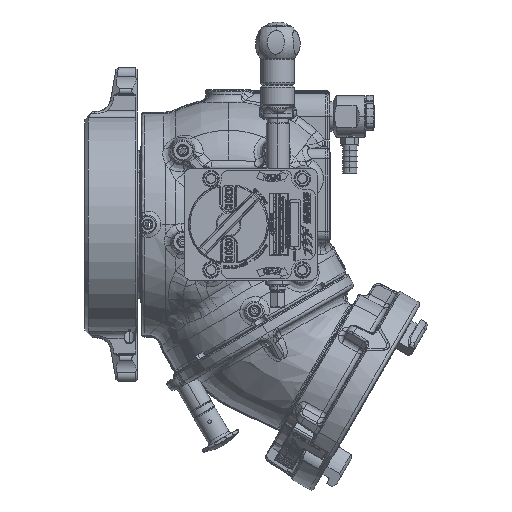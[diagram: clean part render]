
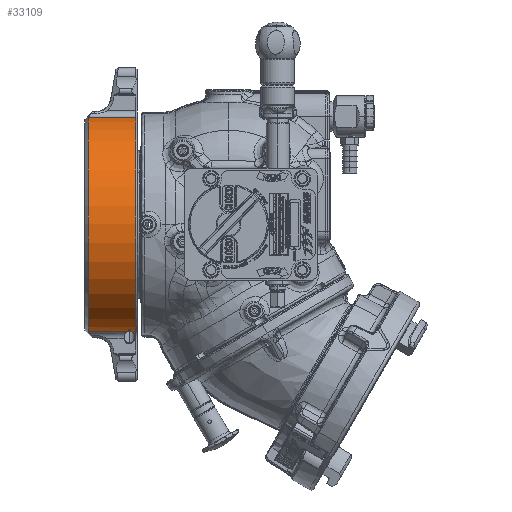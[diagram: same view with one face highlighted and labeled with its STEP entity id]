
A CAD part, top view. The second image highlights one B-rep face of the part: STEP entity #33109.
In plain terms, the highlighted cylindrical face has radius 98.425 mm (diameter 196.85 mm), a partial arc.
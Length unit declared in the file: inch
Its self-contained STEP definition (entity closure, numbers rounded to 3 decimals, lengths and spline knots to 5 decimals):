
#264 = CARTESIAN_POINT ( 'NONE',  ( -3.51968, -3.75915, 0.94042 ) ) ;
#1982 = VERTEX_POINT ( 'NONE', #151601 ) ;
#2989 = CARTESIAN_POINT ( 'NONE',  ( -3.46826, -3.80737, 0.72106 ) ) ;
#7655 = EDGE_CURVE ( 'NONE', #209886, #174272, #71260, .T. ) ;
#7813 = EDGE_CURVE ( 'NONE', #211570, #70257, #176320, .T. ) ;
#16748 = CARTESIAN_POINT ( 'NONE',  ( -5.158, -3.81468, 0.68106 ) ) ;
#18920 = CARTESIAN_POINT ( 'NONE',  ( -3.52753, -3.75938, 0.93953 ) ) ;
#20945 = CARTESIAN_POINT ( 'NONE',  ( -3.48483, -3.80184, 0.74951 ) ) ;
#24626 = ORIENTED_EDGE ( 'NONE', *, *, #67669, .T. ) ;
#24766 = VERTEX_POINT ( 'NONE', #178304 ) ;
#26844 = DIRECTION ( 'NONE',  ( 1., 0., 0. ) ) ;
#28672 = DIRECTION ( 'NONE',  ( 1., 0., 0. ) ) ;
#30025 = VECTOR ( 'NONE', #195940, 39.37008 ) ;
#32451 = B_SPLINE_CURVE_WITH_KNOTS ( 'NONE', 3,
 ( #167777, #200117, #134706, #34920, #67985, #84504, #117507, #68713, #18920, #68507, #264, #118029, #166146, #116585, #99332, #34714, #49120, #166873 ),
 .UNSPECIFIED., .F., .F.,
 ( 4, 2, 2, 2, 2, 2, 2, 2, 4 ),
 ( 0., 0.00079, 0.00119, 0.00139, 0.00159, 0.00179, 0.00198, 0.00238, 0.00318 ),
 .UNSPECIFIED. ) ;
#32482 = VECTOR ( 'NONE', #26844, 39.37008 ) ;
#32859 = LINE ( 'NONE', #16748, #210112 ) ;
#33109 = ADVANCED_FACE ( 'NONE', ( #161799, #159189 ), #125792, .T. ) ;
#34573 = CARTESIAN_POINT ( 'NONE',  ( -3.45867, -3.81108, 0.70125 ) ) ;
#34714 = CARTESIAN_POINT ( 'NONE',  ( -3.49678, -3.75234, 0.96729 ) ) ;
#34920 = CARTESIAN_POINT ( 'NONE',  ( -3.54516, -3.75571, 0.9541 ) ) ;
#35071 = CARTESIAN_POINT ( 'NONE',  ( -3.3075, 3.81468, 0.68106 ) ) ;
#35230 = LINE ( 'NONE', #38555, #63494 ) ;
#35647 = CARTESIAN_POINT ( 'NONE',  ( -4.983, 0., 0. ) ) ;
#37119 = DIRECTION ( 'NONE',  ( 1., 0., 0. ) ) ;
#37402 = CARTESIAN_POINT ( 'NONE',  ( -3.44967, -3.81468, 0.68106 ) ) ;
#38555 = CARTESIAN_POINT ( 'NONE',  ( -5.158, -3.81468, 0.68106 ) ) ;
#39236 = AXIS2_PLACEMENT_3D ( 'NONE', #35647, #150527, #167077 ) ;
#39956 = EDGE_CURVE ( 'NONE', #1982, #211570, #74061, .T. ) ;
#46193 = ORIENTED_EDGE ( 'NONE', *, *, #170651, .F. ) ;
#48098 = CARTESIAN_POINT ( 'NONE',  ( -3.525, -3.79443, 0.78607 ) ) ;
#49120 = CARTESIAN_POINT ( 'NONE',  ( -3.49274, -3.74995, 0.97653 ) ) ;
#52691 = CARTESIAN_POINT ( 'NONE',  ( -3.56498, -3.80178, 0.74981 ) ) ;
#53419 = CARTESIAN_POINT ( 'NONE',  ( -3.54482, -3.79644, 0.77631 ) ) ;
#53972 = CARTESIAN_POINT ( 'NONE',  ( -3.525, -3.79443, 0.78607 ) ) ;
#56928 = EDGE_CURVE ( 'NONE', #1982, #155080, #32859, .T. ) ;
#63494 = VECTOR ( 'NONE', #37119, 39.37008 ) ;
#64552 = CARTESIAN_POINT ( 'NONE',  ( -5.158, -3.74745, 0.98602 ) ) ;
#64915 = CARTESIAN_POINT ( 'NONE',  ( -4.983, 3.81468, 0.68106 ) ) ;
#65942 = CARTESIAN_POINT ( 'NONE',  ( -3.3075, 0., 0. ) ) ;
#66329 = DIRECTION ( 'NONE',  ( 1., 0., 0. ) ) ;
#67669 = EDGE_CURVE ( 'NONE', #90824, #70257, #97022, .T. ) ;
#67985 = CARTESIAN_POINT ( 'NONE',  ( -3.54217, -3.75678, 0.94987 ) ) ;
#68507 = CARTESIAN_POINT ( 'NONE',  ( -3.52226, -3.75937, 0.93957 ) ) ;
#68713 = CARTESIAN_POINT ( 'NONE',  ( -3.5301, -3.75918, 0.94033 ) ) ;
#69923 = CARTESIAN_POINT ( 'NONE',  ( -3.58166, -3.80734, 0.72123 ) ) ;
#70257 = VERTEX_POINT ( 'NONE', #35071 ) ;
#70485 = CARTESIAN_POINT ( 'NONE',  ( -3.51394, -3.79508, 0.78296 ) ) ;
#70623 = CARTESIAN_POINT ( 'NONE',  ( -3.53822, -3.79537, 0.78152 ) ) ;
#71260 = LINE ( 'NONE', #64552, #30025 ) ;
#74061 = CIRCLE ( 'NONE', #39236, 3.875 ) ;
#74390 = CARTESIAN_POINT ( 'NONE',  ( -3.3075, -3.81468, 0.68106 ) ) ;
#75465 = ORIENTED_EDGE ( 'NONE', *, *, #172091, .F. ) ;
#76979 = ORIENTED_EDGE ( 'NONE', *, *, #205492, .T. ) ;
#78593 = VERTEX_POINT ( 'NONE', #48098 ) ;
#84504 = CARTESIAN_POINT ( 'NONE',  ( -3.53669, -3.75814, 0.94448 ) ) ;
#85568 = CARTESIAN_POINT ( 'NONE',  ( -3.5011, -3.79736, 0.7718 ) ) ;
#85709 = CARTESIAN_POINT ( 'NONE',  ( -3.59131, -3.81107, 0.70129 ) ) ;
#90175 = ORIENTED_EDGE ( 'NONE', *, *, #7655, .T. ) ;
#90824 = VERTEX_POINT ( 'NONE', #74390 ) ;
#91858 = CARTESIAN_POINT ( 'NONE',  ( -5.158, 0., 0. ) ) ;
#92163 = CARTESIAN_POINT ( 'NONE',  ( -5.158, 3.81468, 0.68106 ) ) ;
#97022 = CIRCLE ( 'NONE', #166602, 3.875 ) ;
#97519 = DIRECTION ( 'NONE',  ( -1., 0., 0. ) ) ;
#99332 = CARTESIAN_POINT ( 'NONE',  ( -3.50471, -3.75566, 0.95429 ) ) ;
#100640 = CARTESIAN_POINT ( 'NONE',  ( -3.52211, -3.79443, 0.78607 ) ) ;
#100785 = CARTESIAN_POINT ( 'NONE',  ( -3.53582, -3.79505, 0.78309 ) ) ;
#101496 = CARTESIAN_POINT ( 'NONE',  ( -3.60033, -3.81468, 0.68106 ) ) ;
#102942 = CARTESIAN_POINT ( 'NONE',  ( -3.53067, -3.79458, 0.78537 ) ) ;
#109201 = ORIENTED_EDGE ( 'NONE', *, *, #7813, .F. ) ;
#116585 = CARTESIAN_POINT ( 'NONE',  ( -3.50768, -3.75673, 0.95006 ) ) ;
#117312 = CARTESIAN_POINT ( 'NONE',  ( -3.54857, -3.79729, 0.77218 ) ) ;
#117507 = CARTESIAN_POINT ( 'NONE',  ( -3.53466, -3.75855, 0.94282 ) ) ;
#118029 = CARTESIAN_POINT ( 'NONE',  ( -3.51516, -3.75852, 0.94295 ) ) ;
#118140 = EDGE_LOOP ( 'NONE', ( #184849, #90175 ) ) ;
#121836 = EDGE_LOOP ( 'NONE', ( #76979, #24626, #109201, #178983, #126403, #46193, #75465 ) ) ;
#122711 = CARTESIAN_POINT ( 'NONE',  ( -3.48927, -3.74745, 0.98602 ) ) ;
#125792 = CYLINDRICAL_SURFACE ( 'NONE', #210690, 3.875 ) ;
#126403 = ORIENTED_EDGE ( 'NONE', *, *, #56928, .T. ) ;
#134706 = CARTESIAN_POINT ( 'NONE',  ( -3.55318, -3.75237, 0.96719 ) ) ;
#137913 = EDGE_CURVE ( 'NONE', #209886, #174272, #32451, .T. ) ;
#137935 = B_SPLINE_CURVE_WITH_KNOTS ( 'NONE', 3,
 ( #151049, #150313, #102942, #100785, #70623, #53419, #117312, #168292, #52691, #69923, #85709, #101496 ),
 .UNSPECIFIED., .F., .F.,
 ( 4, 2, 2, 2, 2, 4 ),
 ( 0.00339, 0.0036, 0.00381, 0.00422, 0.00506, 0.00672 ),
 .UNSPECIFIED. ) ;
#150313 = CARTESIAN_POINT ( 'NONE',  ( -3.52784, -3.79443, 0.78607 ) ) ;
#150527 = DIRECTION ( 'NONE',  ( -1., 0., 0. ) ) ;
#150895 = CARTESIAN_POINT ( 'NONE',  ( -3.51158, -3.7954, 0.78138 ) ) ;
#151049 = CARTESIAN_POINT ( 'NONE',  ( -3.525, -3.79443, 0.78607 ) ) ;
#151601 = CARTESIAN_POINT ( 'NONE',  ( -4.983, -3.81468, 0.68106 ) ) ;
#152328 = CARTESIAN_POINT ( 'NONE',  ( -3.49067, -3.79999, 0.75881 ) ) ;
#155080 = VERTEX_POINT ( 'NONE', #190080 ) ;
#155090 = CARTESIAN_POINT ( 'NONE',  ( -3.56073, -3.74745, 0.98602 ) ) ;
#159189 = FACE_OUTER_BOUND ( 'NONE', #121836, .T. ) ;
#161799 = FACE_BOUND ( 'NONE', #118140, .T. ) ;
#165009 = DIRECTION ( 'NONE',  ( 0., -1., 0. ) ) ;
#166146 = CARTESIAN_POINT ( 'NONE',  ( -3.51314, -3.7581, 0.94463 ) ) ;
#166602 = AXIS2_PLACEMENT_3D ( 'NONE', #65942, #97519, #165009 ) ;
#166873 = CARTESIAN_POINT ( 'NONE',  ( -3.48927, -3.74745, 0.98602 ) ) ;
#167077 = DIRECTION ( 'NONE',  ( 0., 1., 0. ) ) ;
#167777 = CARTESIAN_POINT ( 'NONE',  ( -3.56073, -3.74745, 0.98602 ) ) ;
#168292 = CARTESIAN_POINT ( 'NONE',  ( -3.55911, -3.79992, 0.75915 ) ) ;
#170651 = EDGE_CURVE ( 'NONE', #78593, #155080, #137935, .T. ) ;
#172091 = EDGE_CURVE ( 'NONE', #24766, #78593, #205080, .T. ) ;
#174272 = VERTEX_POINT ( 'NONE', #122711 ) ;
#176320 = LINE ( 'NONE', #92163, #32482 ) ;
#178304 = CARTESIAN_POINT ( 'NONE',  ( -3.44967, -3.81468, 0.68106 ) ) ;
#178983 = ORIENTED_EDGE ( 'NONE', *, *, #39956, .F. ) ;
#184668 = CARTESIAN_POINT ( 'NONE',  ( -3.51923, -3.79458, 0.78535 ) ) ;
#184849 = ORIENTED_EDGE ( 'NONE', *, *, #137913, .F. ) ;
#185380 = CARTESIAN_POINT ( 'NONE',  ( -3.50493, -3.79649, 0.77607 ) ) ;
#190080 = CARTESIAN_POINT ( 'NONE',  ( -3.60033, -3.81468, 0.68106 ) ) ;
#192378 = DIRECTION ( 'NONE',  ( 0., 1., 0. ) ) ;
#195940 = DIRECTION ( 'NONE',  ( 1., 0., 0. ) ) ;
#200117 = CARTESIAN_POINT ( 'NONE',  ( -3.55725, -3.74996, 0.97649 ) ) ;
#205080 = B_SPLINE_CURVE_WITH_KNOTS ( 'NONE', 3,
 ( #37402, #34573, #2989, #20945, #152328, #85568, #185380, #150895, #70485, #184668, #100640, #53972 ),
 .UNSPECIFIED., .F., .F.,
 ( 4, 2, 2, 2, 2, 4 ),
 ( 0., 0.0017, 0.00254, 0.00297, 0.00318, 0.00339 ),
 .UNSPECIFIED. ) ;
#205492 = EDGE_CURVE ( 'NONE', #24766, #90824, #35230, .T. ) ;
#209886 = VERTEX_POINT ( 'NONE', #155090 ) ;
#210112 = VECTOR ( 'NONE', #66329, 39.37008 ) ;
#210690 = AXIS2_PLACEMENT_3D ( 'NONE', #91858, #28672, #192378 ) ;
#211570 = VERTEX_POINT ( 'NONE', #64915 ) ;
